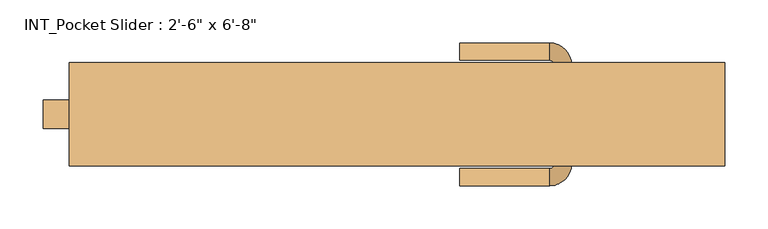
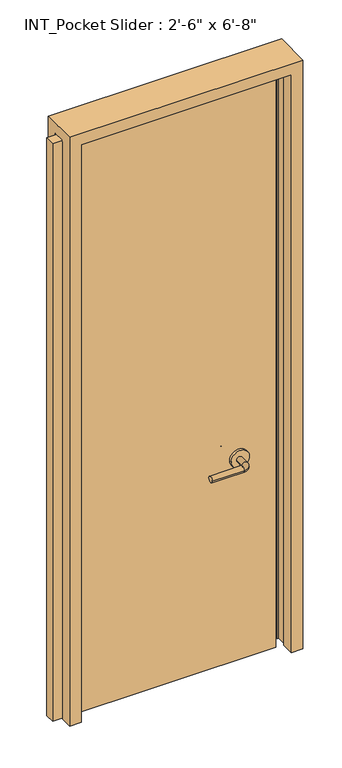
"""IFC4 building model written with IfcOpenShell, lengths in millimetres: door geometry."""

from ifc_helpers import new_model, si_unit, point, frame, frame_2d, origin, origin_with_axes, place, context, project, spatial, polyline, circle_curve, ellipse_curve, trimmed, segment, composite_curve, outline, extrude, faceted_brep, source, transform, mapped, element, save
from ifc_brep_helpers import plane_surface, cylinder_surface, revolved_surface, advanced_brep


def door_cd275a14(model_context):
    return source(origin(), model_context, "Body", "SolidModel", [
        advanced_brep(
        [(202.6, -28.0, 700.0), (182.6, -28.0, 700.0), (202.6, -58.0, 700.0), (182.6, -58.0, 700.0), (177.6, -63.0, 700.0), (177.6, -83.0, 700.0), (72.6, -83.0, 700.0), (72.6, -63.0, 700.0)],
        [
            (0, 1, circle_curve(frame((192.6, -28.0, 700.0), z_axis=(0.0, 1.0, 0.0), x_axis=(-1.0, 0.0, 0.0)), 10.0)),
            (1, 0, circle_curve(frame((192.6, -28.0, 700.0), z_axis=(0.0, 1.0, 0.0), x_axis=(-1.0, 0.0, 0.0)), 10.0)),
            (0, 2),
            (2, 3, circle_curve(frame((192.6, -58.0, 700.0), z_axis=(0.0, 1.0, 0.0), x_axis=(-1.0, 0.0, 0.0)), 10.0)),
            (3, 1),
            (3, 2, circle_curve(frame((192.6, -58.0, 700.0), z_axis=(0.0, 1.0, 0.0), x_axis=(-1.0, 0.0, 0.0)), 10.0)),
            (4, 3, circle_curve(frame((177.6, -58.0, 700.0), z_axis=(0.0, 0.0, 1.0), x_axis=(1.0, 0.0, 0.0)), 5.0)),
            (2, 5, circle_curve(frame((177.6, -58.0, 700.0), z_axis=(0.0, 0.0, -1.0), x_axis=(1.0, 0.0, 0.0)), 25.0)),
            (5, 4, circle_curve(frame((177.6, -73.0, 700.0), z_axis=(1.0, 0.0, 0.0), x_axis=(0.0, 1.0, 0.0)), 10.0)),
            (4, 5, circle_curve(frame((177.6, -73.0, 700.0), z_axis=(1.0, 0.0, 0.0), x_axis=(0.0, 1.0, 0.0)), 10.0)),
            (6, 7, circle_curve(frame((72.6, -73.0, 700.0), z_axis=(-1.0, 0.0, 0.0), x_axis=(0.0, 1.0, 0.0)), 10.0)),
            (7, 6, circle_curve(frame((72.6, -73.0, 700.0), z_axis=(-1.0, 0.0, 0.0), x_axis=(0.0, 1.0, 0.0)), 10.0)),
            (5, 6),
            (7, 4),
        ],
        [
            plane_surface(frame((192.6, -28.0, 700.0), z_axis=(0.0, 1.0, 0.0), x_axis=(0.0, 0.0, 1.0))),
            cylinder_surface(frame((192.6, -28.0, 700.0), z_axis=(0.0, 1.0, 0.0), x_axis=(-1.0, 0.0, 0.0)), 10.0),
            revolved_surface(trimmed(ellipse_curve(frame((192.6, -58.0, 700.0), z_axis=(0.0, 1.0, 0.0), x_axis=(-1.0, 0.0, 0.0)), 10.0, 10.0), [point((202.6, -58.0, 700.0))], [point((182.6, -58.0, 700.0))], True, "CARTESIAN"), (177.6, -58.0, 700.0), (0.0, 0.0, -1.0)),
            revolved_surface(trimmed(ellipse_curve(frame((192.6, -58.0, 700.0), z_axis=(0.0, 1.0, 0.0), x_axis=(-1.0, 0.0, 0.0)), 10.0, 10.0), [point((182.6, -58.0, 700.0))], [point((202.6, -58.0, 700.0))], True, "CARTESIAN"), (177.6, -58.0, 700.0), (0.0, 0.0, -1.0)),
            plane_surface(frame((72.6, -73.0, 700.0), z_axis=(-1.0, 0.0, 0.0), x_axis=(0.0, 0.0, 1.0))),
            cylinder_surface(frame((177.6, -73.0, 700.0), z_axis=(1.0, 0.0, 0.0), x_axis=(0.0, 1.0, 0.0)), 10.0),
        ],
        [
            (0, [[1, 2]]),
            (1, [[-1, 3, 4, 5]]),
            (1, [[-2, -5, 6, -3]]),
            (2, [[7, -4, 8, 9]]),
            (3, [[-8, -6, -7, 10]]),
            (4, [[11, 12]]),
            (5, [[-9, 13, -12, 14]]),
            (5, [[-10, -14, -11, -13]]),
        ],
    ),
        extrude(outline(composite_curve([segment(trimmed(circle_curve(frame_2d((700.0, 195.1)), 30.0), [point((700.0, 225.1))], [point((700.0, 165.1))], False, "CARTESIAN"), True, "CONTINUOUS"), segment(trimmed(circle_curve(frame_2d((700.0, 195.1)), 30.0), [point((700.0, 165.1))], [point((700.0, 225.1))], False, "CARTESIAN"), True, "CONTINUOUS")], self_intersect=False)), frame((0.0, -28.0, 0.0), z_axis=(0.0, 1.0, 0.0), x_axis=(0.0, 0.0, 1.0)), (0.0, 0.0, 1.0), 8.0),
        advanced_brep(
        [(202.6, 28.0, 700.0), (182.6, 28.0, 700.0), (182.6, 58.0, 700.0), (202.6, 58.0, 700.0), (177.6, 63.0, 700.0), (177.6, 83.0, 700.0), (72.6, 83.0, 700.0), (72.6, 63.0, 700.0)],
        [
            (0, 1, circle_curve(frame((192.6, 28.0, 700.0), z_axis=(0.0, -1.0, 0.0), x_axis=(-1.0, 0.0, 0.0)), 10.0)),
            (1, 0, circle_curve(frame((192.6, 28.0, 700.0), z_axis=(0.0, -1.0, 0.0), x_axis=(-1.0, 0.0, 0.0)), 10.0)),
            (1, 2),
            (2, 3, circle_curve(frame((192.6, 58.0, 700.0), z_axis=(0.0, -1.0, 0.0), x_axis=(-1.0, 0.0, 0.0)), 10.0)),
            (3, 0),
            (3, 2, circle_curve(frame((192.6, 58.0, 700.0), z_axis=(0.0, -1.0, 0.0), x_axis=(-1.0, 0.0, 0.0)), 10.0)),
            (4, 5, circle_curve(frame((177.6, 73.0, 700.0), z_axis=(1.0, 0.0, 0.0), x_axis=(0.0, -1.0, 0.0)), 10.0)),
            (5, 3, circle_curve(frame((177.6, 58.0, 700.0), z_axis=(0.0, 0.0, -1.0), x_axis=(1.0, 0.0, 0.0)), 25.0)),
            (2, 4, circle_curve(frame((177.6, 58.0, 700.0), z_axis=(0.0, 0.0, 1.0), x_axis=(1.0, 0.0, 0.0)), 5.0)),
            (5, 4, circle_curve(frame((177.6, 73.0, 700.0), z_axis=(1.0, 0.0, 0.0), x_axis=(0.0, -1.0, 0.0)), 10.0)),
            (6, 7, circle_curve(frame((72.6, 73.0, 700.0), z_axis=(-1.0, 0.0, 0.0), x_axis=(0.0, -1.0, 0.0)), 10.0)),
            (7, 6, circle_curve(frame((72.6, 73.0, 700.0), z_axis=(-1.0, 0.0, 0.0), x_axis=(0.0, -1.0, 0.0)), 10.0)),
            (4, 7),
            (6, 5),
        ],
        [
            plane_surface(frame((192.6, 28.0, 700.0), z_axis=(0.0, -1.0, 0.0), x_axis=(0.0, 0.0, 1.0))),
            cylinder_surface(frame((192.6, 28.0, 700.0), z_axis=(0.0, -1.0, 0.0), x_axis=(-1.0, 0.0, 0.0)), 10.0),
            revolved_surface(trimmed(ellipse_curve(frame((192.6, 58.0, 700.0), z_axis=(0.0, 1.0, 0.0), x_axis=(-1.0, 0.0, 0.0)), 10.0, 10.0), [point((202.6, 58.0, 700.0))], [point((182.6, 58.0, 700.0))], True, "CARTESIAN"), (177.6, 58.0, 700.0), (0.0, 0.0, -1.0)),
            revolved_surface(trimmed(ellipse_curve(frame((192.6, 58.0, 700.0), z_axis=(0.0, 1.0, 0.0), x_axis=(-1.0, 0.0, 0.0)), 10.0, 10.0), [point((182.6, 58.0, 700.0))], [point((202.6, 58.0, 700.0))], True, "CARTESIAN"), (177.6, 58.0, 700.0), (0.0, 0.0, -1.0)),
            plane_surface(frame((72.6, 73.0, 700.0), z_axis=(-1.0, 0.0, 0.0), x_axis=(0.0, 0.0, 1.0))),
            cylinder_surface(frame((177.6, 73.0, 700.0), z_axis=(1.0, 0.0, 0.0), x_axis=(0.0, -1.0, 0.0)), 10.0),
        ],
        [
            (0, [[1, 2]]),
            (1, [[3, 4, 5, -2]]),
            (1, [[-5, 6, -3, -1]]),
            (2, [[7, 8, -4, 9]]),
            (3, [[10, -9, -6, -8]]),
            (4, [[11, 12]]),
            (5, [[13, -11, 14, -7]]),
            (5, [[-14, -12, -13, -10]]),
        ],
    ),
        extrude(outline(composite_curve([segment(trimmed(circle_curve(frame_2d((700.0, 195.1)), 30.0), [point((700.0, 225.1))], [point((700.0, 165.1))], False, "CARTESIAN"), True, "CONTINUOUS"), segment(trimmed(circle_curve(frame_2d((700.0, 195.1)), 30.0), [point((700.0, 165.1))], [point((700.0, 225.1))], False, "CARTESIAN"), True, "CONTINUOUS")], self_intersect=False)), frame((0.0, 20.0, 0.0), z_axis=(0.0, 1.0, 0.0), x_axis=(0.0, 0.0, 1.0)), (0.0, 0.0, 1.0), 8.0),
        extrude(outline(polyline([(-411.3, 16.55), (317.6, 16.55), (317.6, -16.55), (-411.3, -16.55), (-411.3, 16.55)])), origin_with_axes(), (0.0, 0.0, 1.0), 1993.9),
        faceted_brep([(381.0, -60.325, 0.0), (342.9, -60.325, 0.0), (342.9, -19.05, 0.0), (347.9, -19.05, 0.0), (347.9, 19.05, 0.0), (342.9, 19.05, 0.0), (342.9, 60.325, 0.0), (381.0, 60.325, 0.0), (381.0, -60.325, 2032.0), (-381.0, -60.325, 2032.0), (-381.0, -60.325, 0.0), (-342.9, -60.325, 0.0), (-342.9, -60.325, 1993.9), (342.9, -60.325, 1993.9), (342.9, -19.05, 1993.9), (-381.0, -19.05, 1993.9), (-381.0, -19.05, 1998.9), (347.9, -19.05, 1998.9), (347.9, 19.05, 1998.9), (-381.0, 19.05, 1998.9), (-381.0, 19.05, 1993.9), (342.9, 19.05, 1993.9), (342.9, 60.325, 1993.9), (-342.9, 60.325, 1993.9), (-342.9, 60.325, 0.0), (-381.0, 60.325, 0.0), (-381.0, 60.325, 2032.0), (381.0, 60.325, 2032.0), (-381.0, 21.55, 0.0), (-381.0, 21.55, 1993.9), (-381.0, -21.55, 1993.9), (-381.0, -21.55, 0.0), (-342.9, 21.55, 0.0), (-342.9, -21.55, 0.0), (-342.9, -21.55, 1993.9), (-342.9, 21.55, 1993.9)], [[[0, 1, 2, 3, 4, 5, 6, 7]], [[1, 0, 8, 9, 10, 11, 12, 13]], [[2, 1, 13, 14]], [[3, 2, 14, 15, 16, 17]], [[4, 3, 17, 18]], [[5, 4, 18, 19, 20, 21]], [[6, 5, 21, 22]], [[7, 6, 22, 23, 24, 25, 26, 27]], [[0, 7, 27, 8]], [[10, 9, 26, 25, 28, 29, 20, 19, 16, 15, 30, 31]], [[24, 32, 28, 25]], [[31, 33, 11, 10]], [[11, 33, 34, 12]], [[32, 24, 23, 35]], [[28, 32, 35, 29]], [[33, 31, 30, 34]], [[14, 13, 12, 34, 30, 15]], [[17, 16, 19, 18]], [[21, 20, 29, 35, 23, 22]], [[9, 8, 27, 26]]]),
    ])


if __name__ == "__main__":
    model = new_model("IFC4")
    model_context = context("Model", 3, world=origin())
    ifc_project = project(units=[si_unit("LENGTHUNIT", "METRE", prefix="MILLI")], contexts=[model_context])
    site = spatial("IfcSite", under=ifc_project)
    building = spatial("IfcBuilding", under=site)
    placement = place(None, origin())
    door_shape = door_cd275a14(model_context)
    element("IfcDoor", 1, ObjectType="INT_Pocket Slider : 2'-6\" x 6'-8\"", at=placement, inside=building, context=model_context, shape_type="MappedRepresentation", body=[
        mapped(door_shape, transform((0.0, 0.0, 0.0), x_axis=(1.0, 0.0, 0.0), y_axis=(0.0, 1.0, 0.0), z_axis=(0.0, 0.0, 1.0))),
    ])
    save(model, "model.ifc")
